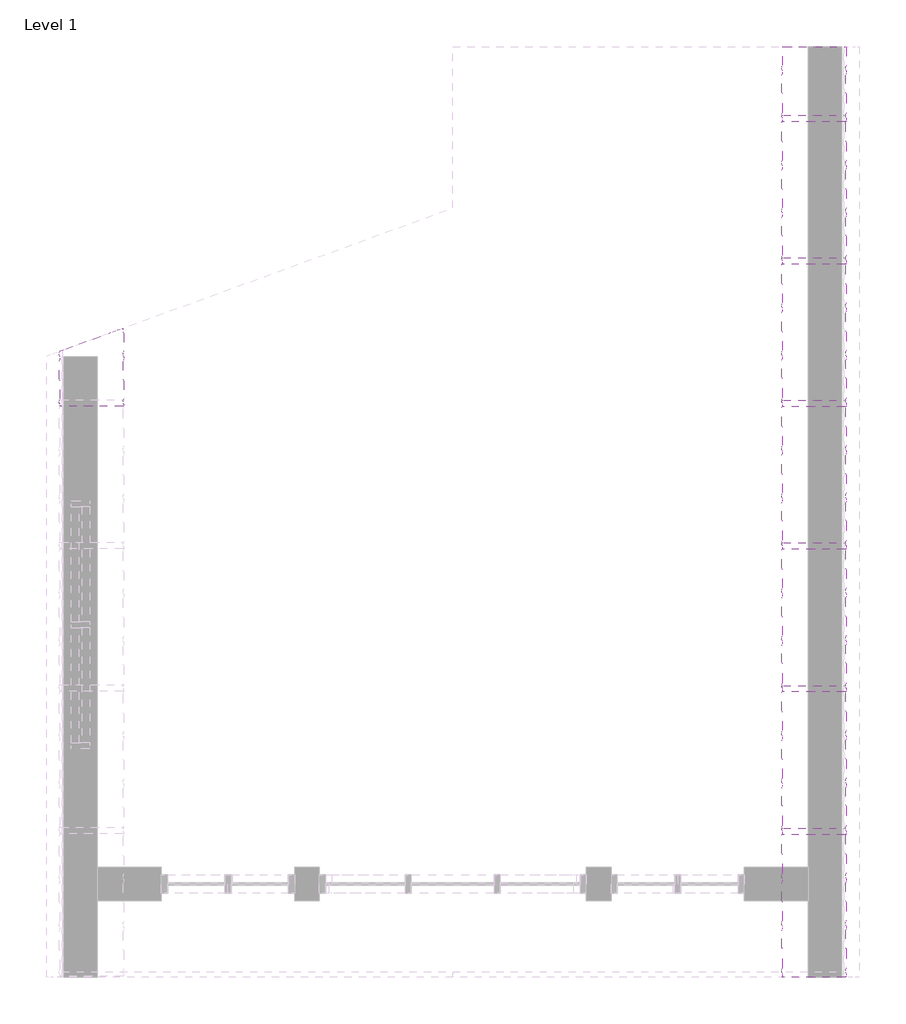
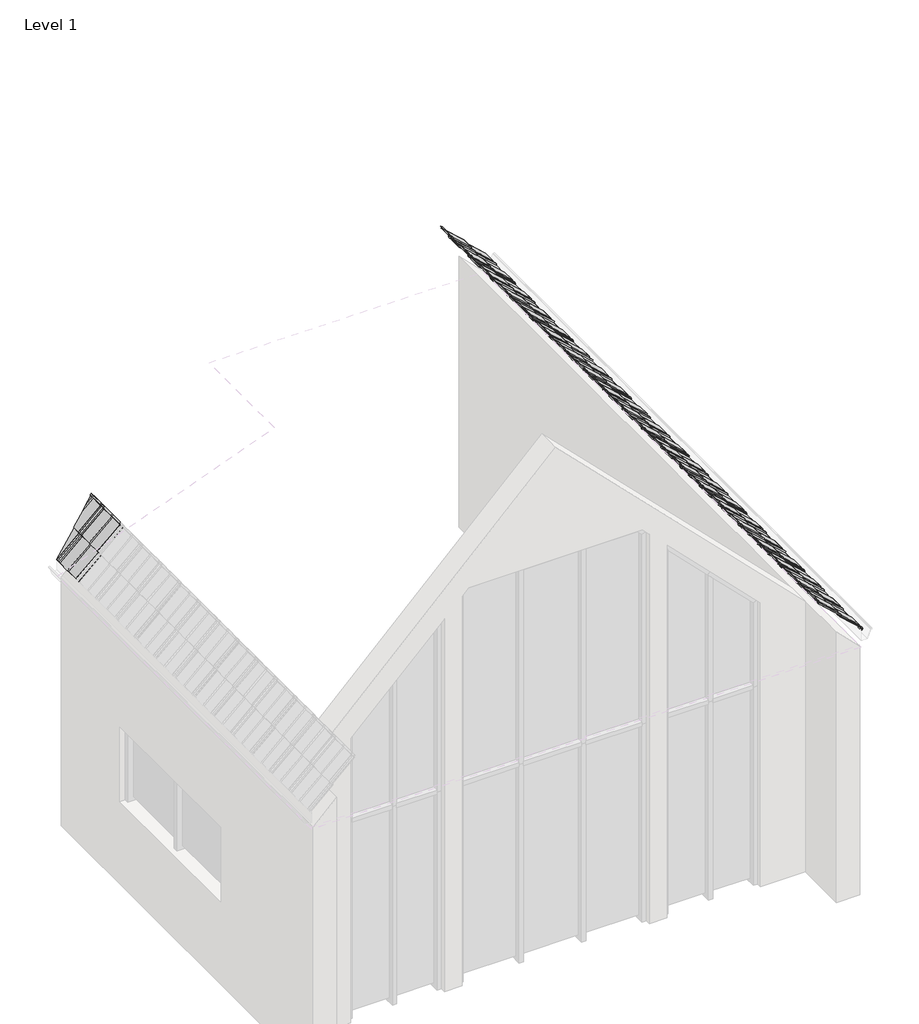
# One storey, part 3 of 10: 8 proxies.
"""IFC4 building model written with IfcOpenShell, lengths in millimetres."""

from ifc_helpers import new_model, si_unit, origin, place, context, project, spatial, faceted_brep, transform, mapped, element, save
from components import specialty_equipment_83d03673, specialty_equipment_0748cc8f

model = new_model("IFC4")

# Units and contexts
model_context = context("Model", 3, world=origin())
ifc_project = project(units=[si_unit("LENGTHUNIT", "METRE", prefix="MILLI")], contexts=[model_context])

# Site, building, storey
site = spatial("IfcSite", under=ifc_project)
building = spatial("IfcBuilding", under=site)
storey = spatial("IfcBuildingStorey", under=building, Name="Level 1", Elevation=0.0)

# Proxies
placement = place(None, origin())
element("IfcBuildingElementProxy", 1, Name="AQUAPLAST - Blachodachówka Alice : Blachodachówka Alice", ObjectType="AQUAPLAST - Blachodachówka Alice : Blachodachówka Alice", at=placement, inside=storey, context=model_context, shape_type="Brep", body=[
    faceted_brep([(-8449.1801867, 13709.2531454, 3808.6264183), (-8457.233073, 13697.2531454, 3817.5231043), (-8457.233073, 13675.440766, 3817.5231043), (-8449.1801867, 13663.440766, 3808.6264183), (-8449.1801867, 13641.440766, 3808.6264183), (-8456.8975361, 13629.940766, 3817.1524091), (-8456.8975361, 13483.2231888, 3817.1524091), (-8449.1801867, 13471.7231888, 3808.6264183), (-8449.1801867, 13325.1039938, 3808.6264183), (-8456.8975361, 13313.6039938, 3817.1524091), (-8456.8975361, 13291.8864165, 3817.1524091), (-8449.1801867, 13280.3864165, 3808.6264183), (-8449.1801867, 13267.7302878, 3808.6264183), (-8437.9732532, 13267.7302878, 3796.245197), (-8437.9732532, 13280.3864165, 3796.245197), (-8445.6906026, 13291.8864165, 3804.7711877), (-8445.6906026, 13313.6039938, 3804.7711877), (-8437.9732532, 13325.1039938, 3796.245197), (-8437.9732532, 13471.7231888, 3796.245197), (-8445.6906026, 13483.2231888, 3804.7711877), (-8445.6906026, 13629.940766, 3804.7711877), (-8437.9732532, 13641.440766, 3796.245197), (-8437.9732532, 13663.440766, 3796.245197), (-8446.0261395, 13675.440766, 3805.141883), (-8446.0261395, 13697.2531454, 3805.141883), (-8437.9732532, 13709.2531454, 3796.245197), (-8437.9732532, 13717.564058, 3796.245197), (-8449.1801867, 13713.4850678, 3808.6264183), (-7951.4862959, 13866.4617325, 4298.9069922), (-7943.7689465, 13854.9617325, 4290.3810014), (-7943.7689465, 13709.4602522, 4290.3810014), (-7951.8218328, 13697.4602522, 4299.2776874), (-7951.8218328, 13675.2336592, 4299.2776874), (-7943.7689465, 13663.2336592, 4290.3810014), (-7943.7689465, 13641.6478728, 4290.3810014), (-7951.4862959, 13630.1478728, 4298.9069922), (-7951.4862959, 13483.016082, 4298.9069922), (-7943.7689465, 13471.516082, 4290.3810014), (-7943.7689465, 13325.3111006, 4290.3810014), (-7951.4862959, 13313.8111006, 4298.9069922), (-7951.4862959, 13291.6793097, 4298.9069922), (-7943.7689465, 13280.1793097, 4290.3810014), (-7943.7689465, 13267.7302878, 4290.3810014), (-7954.757781, 13267.7302878, 4302.5212708), (-7954.757781, 13280.1793097, 4302.5212708), (-7962.4751303, 13291.6793097, 4311.0472616), (-7962.4751303, 13313.8111006, 4311.0472616), (-7954.757781, 13325.3111006, 4302.5212708), (-7954.757781, 13471.516082, 4302.5212708), (-7962.4751303, 13483.016082, 4311.0472616), (-7962.4751303, 13630.1478728, 4311.0472616), (-7954.757781, 13641.6478728, 4302.5212708), (-7954.757781, 13663.2336592, 4302.5212708), (-7962.8106673, 13675.2336592, 4311.4179569), (-7962.8106673, 13697.4602522, 4311.4179569), (-7954.757781, 13709.4602522, 4302.5212708), (-7954.757781, 13854.9617325, 4302.5212708), (-7962.4751303, 13866.4617325, 4311.0472616), (-7962.4751303, 13890.6312212, 4311.0472616), (-7951.4862959, 13894.6308298, 4298.9069922), (-7946.9059298, 13866.4617325, 4325.1398127), (-7939.1885804, 13854.9617325, 4316.6138219), (-7939.1885804, 13709.4602522, 4316.6138219), (-7947.2414668, 13697.4602522, 4325.5105079), (-7947.2414668, 13675.2336592, 4325.5105079), (-7939.1885804, 13663.2336592, 4316.6138219), (-7939.1885804, 13641.6478728, 4316.6138219), (-7946.9059298, 13630.1478728, 4325.1398127), (-7946.9059298, 13483.016082, 4325.1398127), (-7939.1885804, 13471.516082, 4316.6138219), (-7939.1885804, 13325.3111006, 4316.6138219), (-7946.9059298, 13313.8111006, 4325.1398127), (-7946.9059298, 13291.6793097, 4325.1398127), (-7939.1885804, 13280.1793097, 4316.6138219), (-7939.1885804, 13267.7302878, 4316.6138219), (-7938.8530435, 13267.7302878, 4316.2431266), (-7938.8530435, 13280.3864165, 4316.2431266), (-7946.5703929, 13291.8864165, 4324.7691174), (-7946.5703929, 13313.6039938, 4324.7691174), (-7938.8530435, 13325.1039938, 4316.2431266), (-7938.8530435, 13471.7231888, 4316.2431266), (-7946.5703929, 13483.2231888, 4324.7691174), (-7946.5703929, 13629.940766, 4324.7691174), (-7938.8530435, 13641.440766, 4316.2431266), (-7938.8530435, 13663.440766, 4316.2431266), (-7946.9059298, 13675.440766, 4325.1398127), (-7946.9059298, 13697.2531454, 4325.1398127), (-7938.8530435, 13709.2531454, 4316.2431266), (-7938.8530435, 13855.1688392, 4316.2431266), (-7946.5703929, 13866.6688392, 4324.7691174), (-7946.5703929, 13896.4200722, 4324.7691174), (-7946.9059298, 13896.2979468, 4325.1398127), (-7961.3982029, 13866.6688392, 4311.3476402), (-7953.6808535, 13855.1688392, 4302.8216495), (-7953.6808535, 13709.2531454, 4302.8216495), (-7961.7337398, 13697.2531454, 4311.7183355), (-7961.7337398, 13675.440766, 4311.7183355), (-7953.6808535, 13663.440766, 4302.8216495), (-7953.6808535, 13641.440766, 4302.8216495), (-7961.3982029, 13629.940766, 4311.3476402), (-7961.3982029, 13483.2231888, 4311.3476402), (-7953.6808535, 13471.7231888, 4302.8216495), (-7953.6808535, 13325.1039938, 4302.8216495), (-7961.3982029, 13313.6039938, 4311.3476402), (-7961.3982029, 13291.8864165, 4311.3476402), (-7953.6808535, 13280.3864165, 4302.8216495), (-7953.6808535, 13267.7302878, 4302.8216495), (-7942.6920191, 13267.7302878, 4290.68138), (-7942.6920191, 13280.3864165, 4290.68138), (-7950.4093685, 13291.8864165, 4299.2073708), (-7950.4093685, 13313.6039938, 4299.2073708), (-7942.6920191, 13325.1039938, 4290.68138), (-7942.6920191, 13471.7231888, 4290.68138), (-7950.4093685, 13483.2231888, 4299.2073708), (-7950.4093685, 13629.940766, 4299.2073708), (-7942.6920191, 13641.440766, 4290.68138), (-7942.6920191, 13663.440766, 4290.68138), (-7950.7449054, 13675.440766, 4299.578066), (-7950.7449054, 13697.2531454, 4299.578066), (-7942.6920191, 13709.2531454, 4290.68138), (-7942.6920191, 13855.1688392, 4290.68138), (-7950.4093685, 13866.6688392, 4299.2073708), (-7950.4093685, 13895.0227994, 4299.2073708), (-7961.3982029, 13891.0231907, 4311.3476402), (-8191.5118293, 13709.4602522, 4042.5308167), (-8199.5647156, 13697.4602522, 4051.4275028), (-8199.5647156, 13675.2336592, 4051.4275028), (-8191.5118293, 13663.2336592, 4042.5308167), (-8191.5118293, 13641.6478728, 4042.5308167), (-8199.2291787, 13630.1478728, 4051.0568075), (-8199.2291787, 13483.016082, 4051.0568075), (-8191.5118293, 13471.516082, 4042.5308167), (-8191.5118293, 13325.3111006, 4042.5308167), (-8199.2291787, 13313.8111006, 4051.0568075), (-8199.2291787, 13291.6793097, 4051.0568075), (-8191.5118293, 13280.1793097, 4042.5308167), (-8191.5118293, 13267.7302878, 4042.5308167), (-8203.2556218, 13267.7302878, 4055.5051505), (-8203.2556218, 13280.1793097, 4055.5051505), (-8210.9729712, 13291.6793097, 4064.0311413), (-8210.9729712, 13313.8111006, 4064.0311413), (-8203.2556218, 13325.3111006, 4055.5051505), (-8203.2556218, 13471.516082, 4055.5051505), (-8210.9729712, 13483.016082, 4064.0311413), (-8210.9729712, 13630.1478728, 4064.0311413), (-8203.2556218, 13641.6478728, 4055.5051505), (-8203.2556218, 13663.2336592, 4055.5051505), (-8211.3085082, 13675.2336592, 4064.4018365), (-8211.3085082, 13697.4602522, 4064.4018365), (-8203.2556218, 13709.4602522, 4055.5051505), (-8203.2556218, 13802.9942893, 4055.5051505), (-8191.5118293, 13807.2686802, 4042.5308167), (-8028.8802549, 13866.4617325, 4228.8534067), (-8060.4762452, 13854.9617325, 4184.7427213), (-8202.1786944, 13267.7302878, 4055.8055291), (-8202.1786944, 13280.3864165, 4055.8055291), (-8209.8960438, 13291.8864165, 4064.3315199), (-8209.8960438, 13313.6039938, 4064.3315199), (-8202.1786944, 13325.1039938, 4055.8055291), (-8202.1786944, 13471.7231888, 4055.8055291), (-8209.8960438, 13483.2231888, 4064.3315199), (-8209.8960438, 13629.940766, 4064.3315199), (-8202.1786944, 13641.440766, 4055.8055291), (-8202.1786944, 13663.440766, 4055.8055291), (-8210.2315807, 13675.440766, 4064.7022151), (-8210.2315807, 13697.2531454, 4064.7022151), (-8202.1786944, 13709.2531454, 4055.8055291), (-8202.1786944, 13803.3862588, 4055.8055291), (-8059.907224, 13855.1688392, 4184.5833657), (-8028.3112337, 13866.6688392, 4228.6940511), (-8438.7146437, 13709.2531454, 3795.5741231), (-8446.76753, 13697.2531454, 3804.4708091), (-8446.76753, 13675.440766, 3804.4708091), (-8438.7146437, 13663.440766, 3795.5741231), (-8438.7146437, 13641.440766, 3795.5741231), (-8446.4319931, 13629.940766, 3804.1001139), (-8446.4319931, 13483.2231888, 3804.1001139), (-8438.7146437, 13471.7231888, 3795.5741231), (-8438.7146437, 13325.1039938, 3795.5741231), (-8446.4319931, 13313.6039938, 3804.1001139), (-8446.4319931, 13291.8864165, 3804.1001139), (-8438.7146437, 13280.3864165, 3795.5741231), (-8438.7146437, 13267.7302878, 3795.5741231), (-8450.2571141, 13267.7302878, 3808.3260397), (-8450.2571141, 13280.1793097, 3808.3260397), (-8457.9744635, 13291.6793097, 3816.8520305), (-8457.9744635, 13313.8111006, 3816.8520305), (-8450.2571141, 13325.3111006, 3808.3260397), (-8450.2571141, 13471.516082, 3808.3260397), (-8457.9744635, 13483.016082, 3816.8520305), (-8457.9744635, 13630.1478728, 3816.8520305), (-8450.2571141, 13641.6478728, 3808.3260397), (-8450.2571141, 13663.2336592, 3808.3260397), (-8458.3100004, 13675.2336592, 3817.2227257), (-8458.3100004, 13697.4602522, 3817.2227257), (-8450.2571141, 13709.4602522, 3808.3260397), (-8450.2571141, 13713.0930983, 3808.3260397), (-8438.7146437, 13717.2942139, 3795.5741231), (-8190.4349019, 13267.7302878, 4042.8311954), (-8190.4349019, 13280.3864165, 4042.8311954), (-8198.1522512, 13291.8864165, 4051.3571861), (-8198.1522512, 13313.6039938, 4051.3571861), (-8190.4349019, 13325.1039938, 4042.8311954), (-8190.4349019, 13471.7231888, 4042.8311954), (-8198.1522512, 13483.2231888, 4051.3571861), (-8198.1522512, 13629.940766, 4051.3571861), (-8190.4349019, 13641.440766, 4042.8311954), (-8190.4349019, 13663.440766, 4042.8311954), (-8198.4877882, 13675.440766, 4051.7278814), (-8198.4877882, 13697.2531454, 4051.7278814), (-8190.4349019, 13709.2531454, 4042.8311954), (-8190.4349019, 13807.6606498, 4042.8311954), (-8191.1762924, 13280.3864165, 4042.1601215), (-8198.8936417, 13291.8864165, 4050.6861123), (-8198.8936417, 13313.6039938, 4050.6861123), (-8191.1762924, 13325.1039938, 4042.1601215), (-8191.1762924, 13471.7231888, 4042.1601215), (-8198.8936417, 13483.2231888, 4050.6861123), (-8198.8936417, 13629.940766, 4050.6861123), (-8191.1762924, 13641.440766, 4042.1601215), (-8191.1762924, 13663.440766, 4042.1601215), (-8199.2291787, 13675.440766, 4051.0568075), (-8199.2291787, 13697.2531454, 4051.0568075), (-8191.1762924, 13709.2531454, 4042.1601215), (-7961.7337398, 13866.4617325, 4311.7183355), (-7954.0163905, 13854.9617325, 4303.1923447), (-7954.0163905, 13709.4602522, 4303.1923447), (-7962.0692768, 13697.4602522, 4312.0890307), (-7962.0692768, 13675.2336592, 4312.0890307), (-7954.0163905, 13663.2336592, 4303.1923447), (-7954.0163905, 13641.6478728, 4303.1923447), (-7961.7337398, 13630.1478728, 4311.7183355), (-7961.7337398, 13483.016082, 4311.7183355), (-7954.0163905, 13471.516082, 4303.1923447), (-7954.0163905, 13325.3111006, 4303.1923447), (-7961.7337398, 13313.8111006, 4311.7183355), (-7961.7337398, 13291.6793097, 4311.7183355), (-7954.0163905, 13280.1793097, 4303.1923447)], [[[0, 1, 2, 3, 4, 5, 6, 7, 8, 9, 10, 11, 12, 13, 14, 15, 16, 17, 18, 19, 20, 21, 22, 23, 24, 25, 26, 27]], [[28, 29, 30, 31, 32, 33, 34, 35, 36, 37, 38, 39, 40, 41, 42, 43, 44, 45, 46, 47, 48, 49, 50, 51, 52, 53, 54, 55, 56, 57, 58, 59]], [[60, 61, 62, 63, 64, 65, 66, 67, 68, 69, 70, 71, 72, 73, 74, 75, 76, 77, 78, 79, 80, 81, 82, 83, 84, 85, 86, 87, 88, 89, 90, 91]], [[92, 93, 94, 95, 96, 97, 98, 99, 100, 101, 102, 103, 104, 105, 106, 107, 108, 109, 110, 111, 112, 113, 114, 115, 116, 117, 118, 119, 120, 121, 122, 123]], [[124, 125, 126, 127, 128, 129, 130, 131, 132, 133, 134, 135, 136, 137, 138, 139, 140, 141, 142, 143, 144, 145, 146, 147, 148, 149, 150, 151]], [[28, 59, 152]], [[29, 28, 152, 153]], [[30, 29, 153, 150, 149]], [[31, 30, 149, 148]], [[32, 31, 148, 147]], [[33, 32, 147, 146]], [[34, 33, 146, 145]], [[35, 34, 145, 144]], [[36, 35, 144, 143]], [[37, 36, 143, 142]], [[38, 37, 142, 141]], [[39, 38, 141, 140]], [[40, 39, 140, 139]], [[41, 40, 139, 138]], [[42, 41, 138, 137]], [[108, 107, 154, 155]], [[109, 108, 155, 156]], [[110, 109, 156, 157]], [[111, 110, 157, 158]], [[112, 111, 158, 159]], [[113, 112, 159, 160]], [[114, 113, 160, 161]], [[115, 114, 161, 162]], [[116, 115, 162, 163]], [[117, 116, 163, 164]], [[118, 117, 164, 165]], [[119, 118, 165, 166]], [[120, 119, 166, 167, 168]], [[121, 120, 168, 169]], [[122, 121, 169]], [[170, 171, 172, 173, 174, 175, 176, 177, 178, 179, 180, 181, 182, 183, 184, 185, 186, 187, 188, 189, 190, 191, 192, 193, 194, 195, 196, 197]], [[155, 154, 198, 199, 200, 201, 202, 203, 204, 205, 206, 207, 208, 209, 210, 211, 167, 166, 165, 164, 163, 162, 161, 160, 159, 158, 157, 156]], [[195, 124, 151, 196]], [[125, 124, 195, 194]], [[126, 125, 194, 193]], [[127, 126, 193, 192]], [[128, 127, 192, 191]], [[129, 128, 191, 190]], [[130, 129, 190, 189]], [[131, 130, 189, 188]], [[132, 131, 188, 187]], [[133, 132, 187, 186]], [[134, 133, 186, 185]], [[135, 134, 185, 184]], [[136, 135, 184, 183]], [[12, 11, 212, 199, 198]], [[11, 10, 213, 200, 199, 212]], [[10, 9, 214, 201, 200, 213]], [[9, 8, 215, 202, 201, 214]], [[8, 7, 216, 203, 202, 215]], [[7, 6, 217, 204, 203, 216]], [[6, 5, 218, 205, 204, 217]], [[5, 4, 219, 206, 205, 218]], [[4, 3, 220, 207, 206, 219]], [[3, 2, 221, 208, 207, 220]], [[2, 1, 222, 209, 208, 221]], [[1, 0, 223, 210, 209, 222]], [[223, 0, 27, 211, 210]], [[14, 13, 182, 181]], [[15, 14, 181, 180]], [[16, 15, 180, 179]], [[17, 16, 179, 178]], [[18, 17, 178, 177]], [[19, 18, 177, 176]], [[20, 19, 176, 175]], [[21, 20, 175, 174]], [[22, 21, 174, 173]], [[23, 22, 173, 172]], [[24, 23, 172, 171]], [[25, 24, 171, 170]], [[25, 170, 197, 26]], [[57, 224, 60, 91, 58]], [[57, 56, 225, 61, 60, 224]], [[56, 55, 226, 62, 61, 225]], [[55, 54, 227, 63, 62, 226]], [[54, 53, 228, 64, 63, 227]], [[53, 52, 229, 65, 64, 228]], [[52, 51, 230, 66, 65, 229]], [[51, 50, 231, 67, 66, 230]], [[50, 49, 232, 68, 67, 231]], [[49, 48, 233, 69, 68, 232]], [[48, 47, 234, 70, 69, 233]], [[47, 46, 235, 71, 70, 234]], [[46, 45, 236, 72, 71, 235]], [[45, 44, 237, 73, 72, 236]], [[44, 43, 74, 73, 237]], [[76, 75, 106, 105]], [[77, 76, 105, 104]], [[78, 77, 104, 103]], [[79, 78, 103, 102]], [[80, 79, 102, 101]], [[81, 80, 101, 100]], [[82, 81, 100, 99]], [[83, 82, 99, 98]], [[84, 83, 98, 97]], [[85, 84, 97, 96]], [[86, 85, 96, 95]], [[87, 86, 95, 94]], [[88, 87, 94, 93]], [[89, 88, 93, 92]], [[89, 92, 123, 90]], [[13, 12, 198, 154, 107, 106, 75, 74, 43, 42, 137, 136, 183, 182]], [[27, 26, 197, 196, 151, 150, 153, 152, 59, 58, 91, 90, 123, 122, 169, 168, 167, 211]]]),
])
specialty_equipment_shape = specialty_equipment_83d03673(model_context)
element("IfcBuildingElementProxy", 2, Name="AQUAPLAST - Blachodachówka Alice : Blachodachówka Alice", ObjectType="AQUAPLAST - Blachodachówka Alice : Blachodachówka Alice", at=placement, inside=storey, context=model_context, shape_type="MappedRepresentation", body=[
    mapped(specialty_equipment_shape, transform((-2138.0968012, 9236.4901654, 3797.0235169), x_axis=(0.0, 1.0, 0.0), y_axis=(-0.7071067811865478, 0.0, 0.7071067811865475), z_axis=(0.7071067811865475, 0.0, 0.7071067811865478))),
])
element("IfcBuildingElementProxy", 3, Name="AQUAPLAST - Blachodachówka Alice : Blachodachówka Alice", ObjectType="AQUAPLAST - Blachodachówka Alice : Blachodachówka Alice", at=placement, inside=storey, context=model_context, shape_type="MappedRepresentation", body=[
    mapped(specialty_equipment_shape, transform((-2138.0968012, 10385.4901654, 3797.0235169), x_axis=(0.0, 1.0, 0.0), y_axis=(-0.7071067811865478, 0.0, 0.7071067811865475), z_axis=(0.7071067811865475, 0.0, 0.7071067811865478))),
])
element("IfcBuildingElementProxy", 4, Name="AQUAPLAST - Blachodachówka Alice : Blachodachówka Alice", ObjectType="AQUAPLAST - Blachodachówka Alice : Blachodachówka Alice", at=placement, inside=storey, context=model_context, shape_type="MappedRepresentation", body=[
    mapped(specialty_equipment_shape, transform((-2138.0968012, 11534.4901654, 3797.0235169), x_axis=(0.0, 1.0, 0.0), y_axis=(-0.7071067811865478, 0.0, 0.7071067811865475), z_axis=(0.7071067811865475, 0.0, 0.7071067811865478))),
])
element("IfcBuildingElementProxy", 5, Name="AQUAPLAST - Blachodachówka Alice : Blachodachówka Alice", ObjectType="AQUAPLAST - Blachodachówka Alice : Blachodachówka Alice", at=placement, inside=storey, context=model_context, shape_type="MappedRepresentation", body=[
    mapped(specialty_equipment_shape, transform((-2138.0968012, 12683.4901654, 3797.0235169), x_axis=(0.0, 1.0, 0.0), y_axis=(-0.7071067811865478, 0.0, 0.7071067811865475), z_axis=(0.7071067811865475, 0.0, 0.7071067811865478))),
])
element("IfcBuildingElementProxy", 6, Name="AQUAPLAST - Blachodachówka Alice : Blachodachówka Alice", ObjectType="AQUAPLAST - Blachodachówka Alice : Blachodachówka Alice", at=placement, inside=storey, context=model_context, shape_type="MappedRepresentation", body=[
    mapped(specialty_equipment_shape, transform((-2138.0968012, 13832.4901654, 3797.0235169), x_axis=(0.0, 1.0, 0.0), y_axis=(-0.7071067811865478, 0.0, 0.7071067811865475), z_axis=(0.7071067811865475, 0.0, 0.7071067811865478))),
])
element("IfcBuildingElementProxy", 7, Name="AQUAPLAST - Blachodachówka Alice : Blachodachówka Alice", ObjectType="AQUAPLAST - Blachodachówka Alice : Blachodachówka Alice", at=placement, inside=storey, context=model_context, shape_type="MappedRepresentation", body=[
    mapped(specialty_equipment_shape, transform((-2138.0968012, 14981.4901654, 3797.0235169), x_axis=(0.0, 1.0, 0.0), y_axis=(-0.7071067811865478, 0.0, 0.7071067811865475), z_axis=(0.7071067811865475, 0.0, 0.7071067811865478))),
])
specialty_equipment_2_shape = specialty_equipment_0748cc8f(model_context)
element("IfcBuildingElementProxy", 8, Name="AQUAPLAST - Blachodachówka Alice : Blachodachówka Alice", ObjectType="AQUAPLAST - Blachodachówka Alice : Blachodachówka Alice", at=placement, inside=storey, context=model_context, shape_type="MappedRepresentation", body=[
    mapped(specialty_equipment_2_shape, transform((-2138.0968012, 16130.4901654, 3797.0235169), x_axis=(0.0, 1.0, 0.0), y_axis=(-0.7071067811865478, 0.0, 0.7071067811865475), z_axis=(0.7071067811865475, 0.0, 0.7071067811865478))),
])

save(model, "model.ifc")
